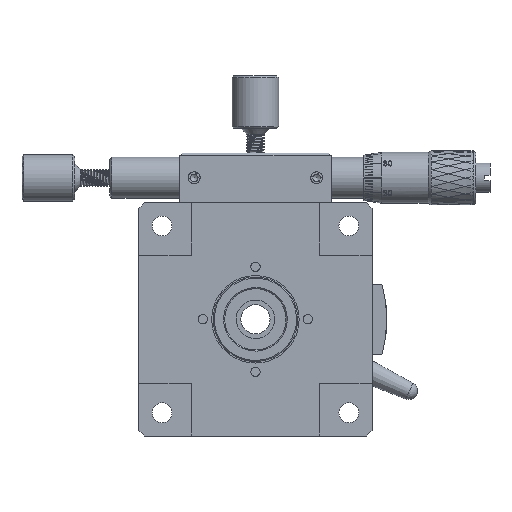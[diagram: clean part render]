
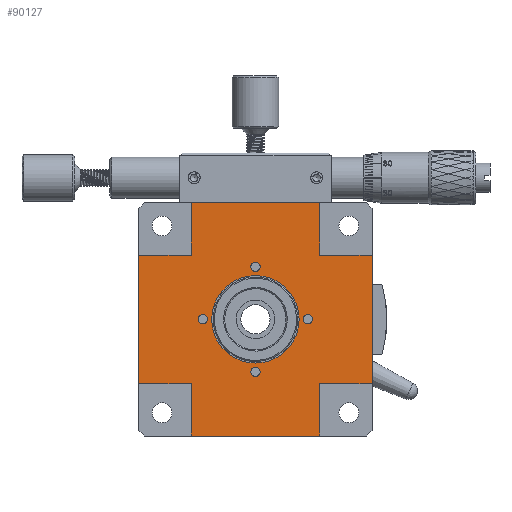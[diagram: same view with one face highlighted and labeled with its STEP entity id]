
A CAD part, front view. The second image highlights one B-rep face of the part: STEP entity #90127.
In plain terms, the highlighted planar face has unit normal (0, -1, 0).
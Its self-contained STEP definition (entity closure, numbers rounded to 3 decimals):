
#305 = FACE_BOUND ( 'NONE', #66710, .T. ) ;
#1632 = DIRECTION ( 'NONE',  ( 0., 0., -1. ) ) ;
#2219 = CARTESIAN_POINT ( 'NONE',  ( 0., 0.5, 0. ) ) ;
#3816 = DIRECTION ( 'NONE',  ( 0., 0., 1. ) ) ;
#4336 = DIRECTION ( 'NONE',  ( 0., 1., 0. ) ) ;
#4399 = EDGE_CURVE ( 'NONE', #13908, #13908, #12103, .T. ) ;
#4404 = DIRECTION ( 'NONE',  ( 0., 0., -1. ) ) ;
#5002 = DIRECTION ( 'NONE',  ( 0., -1., 0. ) ) ;
#5062 = CARTESIAN_POINT ( 'NONE',  ( 29., 0.5, -20. ) ) ;
#5555 = CARTESIAN_POINT ( 'NONE',  ( 29., 0.5, -20.8 ) ) ;
#6139 = LINE ( 'NONE', #58053, #57090 ) ;
#6770 = EDGE_CURVE ( 'NONE', #12173, #90850, #6139, .T. ) ;
#6914 = AXIS2_PLACEMENT_3D ( 'NONE', #105591, #5002, #125556 ) ;
#7046 = EDGE_CURVE ( 'NONE', #80919, #12137, #73964, .T. ) ;
#8175 = CARTESIAN_POINT ( 'NONE',  ( 0., 0.5, -31. ) ) ;
#10094 = CARTESIAN_POINT ( 'NONE',  ( 20., 0.5, -29.8 ) ) ;
#10389 = EDGE_CURVE ( 'NONE', #111197, #90850, #22270, .T. ) ;
#11443 = CARTESIAN_POINT ( 'NONE',  ( 9., 0.5, -9. ) ) ;
#11520 = CARTESIAN_POINT ( 'NONE',  ( 9., 0.5, -31. ) ) ;
#11753 = EDGE_CURVE ( 'NONE', #64523, #64523, #68616, .T. ) ;
#12103 = CIRCLE ( 'NONE', #33433, 0.8 ) ;
#12137 = VERTEX_POINT ( 'NONE', #11520 ) ;
#12173 = VERTEX_POINT ( 'NONE', #59314 ) ;
#12740 = ORIENTED_EDGE ( 'NONE', *, *, #82499, .F. ) ;
#13767 = CARTESIAN_POINT ( 'NONE',  ( 0., 0.5, 0. ) ) ;
#13908 = VERTEX_POINT ( 'NONE', #23862 ) ;
#14270 = DIRECTION ( 'NONE',  ( 0., 0., 1. ) ) ;
#15061 = DIRECTION ( 'NONE',  ( -1., 0., 0. ) ) ;
#15145 = VERTEX_POINT ( 'NONE', #23804 ) ;
#15202 = VECTOR ( 'NONE', #14270, 1000. ) ;
#16075 = LINE ( 'NONE', #82400, #79141 ) ;
#17880 = CARTESIAN_POINT ( 'NONE',  ( 0., 0.5, -9. ) ) ;
#18251 = ORIENTED_EDGE ( 'NONE', *, *, #39530, .T. ) ;
#18989 = DIRECTION ( 'NONE',  ( -1., 0., 0. ) ) ;
#19296 = CARTESIAN_POINT ( 'NONE',  ( 0., 0.5, -9. ) ) ;
#19561 = CARTESIAN_POINT ( 'NONE',  ( 0., 0.5, -40. ) ) ;
#19938 = CIRCLE ( 'NONE', #79478, 0.8 ) ;
#20891 = CARTESIAN_POINT ( 'NONE',  ( 31., 0.5, 0. ) ) ;
#21308 = EDGE_CURVE ( 'NONE', #89150, #12137, #58143, .T. ) ;
#21679 = VECTOR ( 'NONE', #99143, 1000. ) ;
#22270 = LINE ( 'NONE', #93542, #15202 ) ;
#23804 = CARTESIAN_POINT ( 'NONE',  ( 20., 0.5, -27.5 ) ) ;
#23862 = CARTESIAN_POINT ( 'NONE',  ( 11., 0.5, -20.8 ) ) ;
#26230 = VERTEX_POINT ( 'NONE', #11443 ) ;
#27210 = CIRCLE ( 'NONE', #101605, 7.5 ) ;
#28585 = VECTOR ( 'NONE', #18989, 1000. ) ;
#30221 = LINE ( 'NONE', #19561, #51298 ) ;
#30528 = VERTEX_POINT ( 'NONE', #19296 ) ;
#31755 = ORIENTED_EDGE ( 'NONE', *, *, #60957, .T. ) ;
#32259 = DIRECTION ( 'NONE',  ( 0., -1., 0. ) ) ;
#32523 = ORIENTED_EDGE ( 'NONE', *, *, #10389, .T. ) ;
#33433 = AXIS2_PLACEMENT_3D ( 'NONE', #126683, #107377, #46736 ) ;
#33894 = DIRECTION ( 'NONE',  ( 0., 0., -1. ) ) ;
#34967 = DIRECTION ( 'NONE',  ( 0., 0., -1. ) ) ;
#36892 = VECTOR ( 'NONE', #33894, 1000. ) ;
#37322 = CARTESIAN_POINT ( 'NONE',  ( 9., 0.5, -40. ) ) ;
#38743 = EDGE_LOOP ( 'NONE', ( #93322 ) ) ;
#39530 = EDGE_CURVE ( 'NONE', #73575, #59134, #87681, .T. ) ;
#42007 = DIRECTION ( 'NONE',  ( 0., 0., 1. ) ) ;
#42114 = CARTESIAN_POINT ( 'NONE',  ( 9., 0.5, 0. ) ) ;
#42228 = DIRECTION ( 'NONE',  ( 1., 0., 0. ) ) ;
#42234 = VECTOR ( 'NONE', #42007, 1000. ) ;
#42919 = PLANE ( 'NONE',  #109733 ) ;
#43617 = EDGE_CURVE ( 'NONE', #124414, #45362, #106332, .T. ) ;
#44637 = EDGE_CURVE ( 'NONE', #12173, #73575, #16075, .T. ) ;
#45209 = CIRCLE ( 'NONE', #70730, 0.8 ) ;
#45362 = VERTEX_POINT ( 'NONE', #42114 ) ;
#46648 = CARTESIAN_POINT ( 'NONE',  ( 31., 0.5, -31. ) ) ;
#46736 = DIRECTION ( 'NONE',  ( 0., 0., -1. ) ) ;
#48206 = ORIENTED_EDGE ( 'NONE', *, *, #7046, .F. ) ;
#48635 = ORIENTED_EDGE ( 'NONE', *, *, #6770, .F. ) ;
#51298 = VECTOR ( 'NONE', #42228, 1000. ) ;
#51365 = CARTESIAN_POINT ( 'NONE',  ( 0., 0.5, -31. ) ) ;
#51546 = LINE ( 'NONE', #20891, #59083 ) ;
#51560 = FACE_BOUND ( 'NONE', #122442, .T. ) ;
#52348 = ORIENTED_EDGE ( 'NONE', *, *, #21308, .T. ) ;
#52628 = EDGE_CURVE ( 'NONE', #30528, #26230, #118504, .T. ) ;
#52726 = VERTEX_POINT ( 'NONE', #10094 ) ;
#57019 = EDGE_CURVE ( 'NONE', #96802, #96802, #45209, .T. ) ;
#57090 = VECTOR ( 'NONE', #107403, 1000. ) ;
#58053 = CARTESIAN_POINT ( 'NONE',  ( 0., 0.5, -31. ) ) ;
#58143 = LINE ( 'NONE', #8175, #124838 ) ;
#59083 = VECTOR ( 'NONE', #113536, 1000. ) ;
#59134 = VERTEX_POINT ( 'NONE', #101842 ) ;
#59314 = CARTESIAN_POINT ( 'NONE',  ( 40., 0.5, -31. ) ) ;
#60957 = EDGE_CURVE ( 'NONE', #45362, #26230, #101811, .T. ) ;
#63554 = FACE_BOUND ( 'NONE', #89106, .T. ) ;
#64523 = VERTEX_POINT ( 'NONE', #84521 ) ;
#66217 = EDGE_LOOP ( 'NONE', ( #48206, #79818, #32523, #48635, #102941, #18251, #129441, #80563, #31755, #101450, #110310, #52348 ) ) ;
#66710 = EDGE_LOOP ( 'NONE', ( #12740 ) ) ;
#68616 = CIRCLE ( 'NONE', #6914, 0.8 ) ;
#68779 = DIRECTION ( 'NONE',  ( 1., 0., 0. ) ) ;
#70730 = AXIS2_PLACEMENT_3D ( 'NONE', #5062, #96957, #4404 ) ;
#71334 = DIRECTION ( 'NONE',  ( 0., -1., 0. ) ) ;
#73575 = VERTEX_POINT ( 'NONE', #79859 ) ;
#73964 = LINE ( 'NONE', #84631, #42234 ) ;
#77618 = CARTESIAN_POINT ( 'NONE',  ( 31., 0.5, 0. ) ) ;
#77940 = EDGE_CURVE ( 'NONE', #80919, #111197, #30221, .T. ) ;
#78762 = ORIENTED_EDGE ( 'NONE', *, *, #57019, .F. ) ;
#79141 = VECTOR ( 'NONE', #3816, 1000. ) ;
#79478 = AXIS2_PLACEMENT_3D ( 'NONE', #103326, #71334, #110663 ) ;
#79818 = ORIENTED_EDGE ( 'NONE', *, *, #77940, .T. ) ;
#79859 = CARTESIAN_POINT ( 'NONE',  ( 40., 0.5, -9. ) ) ;
#80563 = ORIENTED_EDGE ( 'NONE', *, *, #43617, .T. ) ;
#80919 = VERTEX_POINT ( 'NONE', #37322 ) ;
#81539 = FACE_OUTER_BOUND ( 'NONE', #66217, .T. ) ;
#81920 = EDGE_LOOP ( 'NONE', ( #93748 ) ) ;
#82400 = CARTESIAN_POINT ( 'NONE',  ( 40., 0.5, 0. ) ) ;
#82499 = EDGE_CURVE ( 'NONE', #52726, #52726, #19938, .T. ) ;
#84521 = CARTESIAN_POINT ( 'NONE',  ( 20., 0.5, -11.8 ) ) ;
#84631 = CARTESIAN_POINT ( 'NONE',  ( 9., 0.5, 0. ) ) ;
#87681 = LINE ( 'NONE', #128316, #28585 ) ;
#89106 = EDGE_LOOP ( 'NONE', ( #106070 ) ) ;
#89150 = VERTEX_POINT ( 'NONE', #51365 ) ;
#90127 = ADVANCED_FACE ( 'NONE', ( #101516, #305, #51560, #63554, #81539, #92196 ), #42919, .T. ) ;
#90463 = VECTOR ( 'NONE', #105445, 1000. ) ;
#90850 = VERTEX_POINT ( 'NONE', #46648 ) ;
#92196 = FACE_BOUND ( 'NONE', #81920, .T. ) ;
#92864 = CARTESIAN_POINT ( 'NONE',  ( 0., 0.5, 0. ) ) ;
#93322 = ORIENTED_EDGE ( 'NONE', *, *, #11753, .F. ) ;
#93542 = CARTESIAN_POINT ( 'NONE',  ( 31., 0.5, 0. ) ) ;
#93748 = ORIENTED_EDGE ( 'NONE', *, *, #131435, .T. ) ;
#96802 = VERTEX_POINT ( 'NONE', #5555 ) ;
#96957 = DIRECTION ( 'NONE',  ( 0., -1., 0. ) ) ;
#99143 = DIRECTION ( 'NONE',  ( 1., 0., 0. ) ) ;
#101450 = ORIENTED_EDGE ( 'NONE', *, *, #52628, .F. ) ;
#101516 = FACE_BOUND ( 'NONE', #38743, .T. ) ;
#101605 = AXIS2_PLACEMENT_3D ( 'NONE', #127510, #4336, #34967 ) ;
#101811 = LINE ( 'NONE', #112518, #36892 ) ;
#101842 = CARTESIAN_POINT ( 'NONE',  ( 31., 0.5, -9. ) ) ;
#102941 = ORIENTED_EDGE ( 'NONE', *, *, #44637, .T. ) ;
#103326 = CARTESIAN_POINT ( 'NONE',  ( 20., 0.5, -29. ) ) ;
#104583 = EDGE_CURVE ( 'NONE', #30528, #89150, #113479, .T. ) ;
#105445 = DIRECTION ( 'NONE',  ( 0., 0., -1. ) ) ;
#105591 = CARTESIAN_POINT ( 'NONE',  ( 20., 0.5, -11. ) ) ;
#106070 = ORIENTED_EDGE ( 'NONE', *, *, #4399, .F. ) ;
#106332 = LINE ( 'NONE', #13767, #130364 ) ;
#107377 = DIRECTION ( 'NONE',  ( 0., -1., 0. ) ) ;
#107403 = DIRECTION ( 'NONE',  ( -1., 0., 0. ) ) ;
#109733 = AXIS2_PLACEMENT_3D ( 'NONE', #92864, #32259, #1632 ) ;
#110310 = ORIENTED_EDGE ( 'NONE', *, *, #104583, .T. ) ;
#110663 = DIRECTION ( 'NONE',  ( 0., 0., -1. ) ) ;
#111197 = VERTEX_POINT ( 'NONE', #117132 ) ;
#111815 = EDGE_CURVE ( 'NONE', #124414, #59134, #51546, .T. ) ;
#112518 = CARTESIAN_POINT ( 'NONE',  ( 9., 0.5, 0. ) ) ;
#113479 = LINE ( 'NONE', #2219, #90463 ) ;
#113536 = DIRECTION ( 'NONE',  ( 0., 0., -1. ) ) ;
#117132 = CARTESIAN_POINT ( 'NONE',  ( 31., 0.5, -40. ) ) ;
#118504 = LINE ( 'NONE', #17880, #21679 ) ;
#122442 = EDGE_LOOP ( 'NONE', ( #78762 ) ) ;
#124414 = VERTEX_POINT ( 'NONE', #77618 ) ;
#124838 = VECTOR ( 'NONE', #68779, 1000. ) ;
#125556 = DIRECTION ( 'NONE',  ( 0., 0., -1. ) ) ;
#126683 = CARTESIAN_POINT ( 'NONE',  ( 11., 0.5, -20. ) ) ;
#127510 = CARTESIAN_POINT ( 'NONE',  ( 20., 0.5, -20. ) ) ;
#128316 = CARTESIAN_POINT ( 'NONE',  ( 0., 0.5, -9. ) ) ;
#129441 = ORIENTED_EDGE ( 'NONE', *, *, #111815, .F. ) ;
#130364 = VECTOR ( 'NONE', #15061, 1000. ) ;
#131435 = EDGE_CURVE ( 'NONE', #15145, #15145, #27210, .T. ) ;
